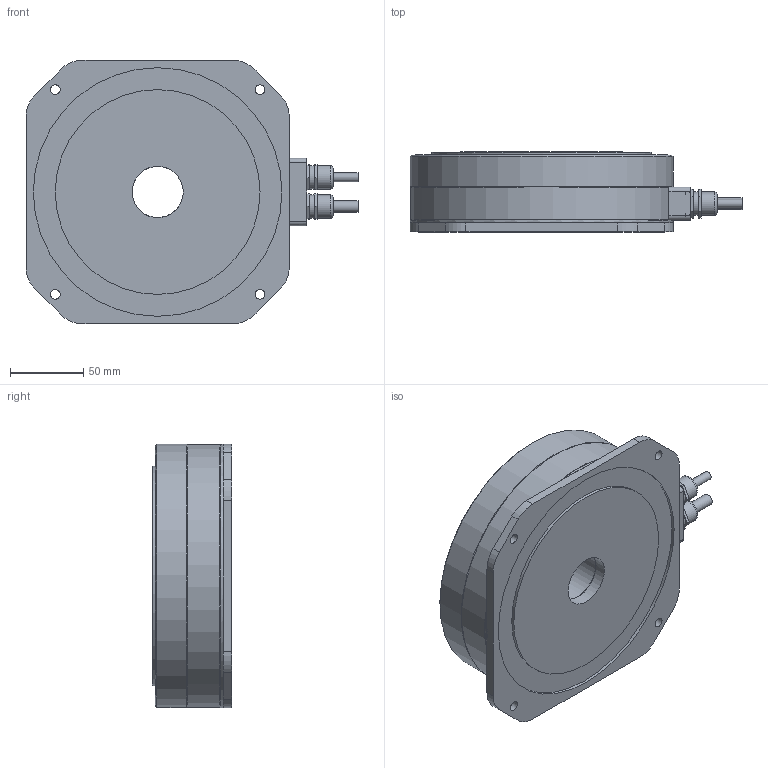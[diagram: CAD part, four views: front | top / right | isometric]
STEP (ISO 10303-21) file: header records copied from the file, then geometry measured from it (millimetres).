
FILE_DESCRIPTION( ( 'Unknown' ), '1' );
FILE_NAME( 'C:/Users/michael/Desktop/实体图底稿/RMB180-1三维模型.stp', 'Unknown', ( 'Unknown' ), ( 'Unknown' ), 'PSStep 17.0.49', 'Unknown', ' ' );
FILE_SCHEMA( ( 'AUTOMOTIVE_DESIGN { 1 0 10303 214 1 1 1 1 }' ) );
Length unit declared in the file: millimetre
Products named in the file (2): 轴承座
Bounding box: 227 x 54.5 x 180 mm (x, y, z)
Volume: 1317590.6 mm3; surface area: 170435.7 mm2
Topology: 2 solids, 14 shells, 326 faces, 732 edges, 487 vertices
Faces by surface type: plane 199, cylinder 102, bspline 13, cone 8, torus 4
Full cylindrical faces by diameter (mm): 2.459 x4, 3.6 x4, 4.134 x6, 4.8 x6, 5.6 x4, 6 x6, 6.647 x4, 7.6 x6, 8 x10, 12 x2, 16 x4, 35 x2, 132 x1, 140 x1, 150 x1, 164 x1, 170 x1, 172 x1, 173 x1, 180 x2
Entity records: 14244 total; most frequent: CARTESIAN_POINT 4857, DIRECTION 1380, ORIENTED_EDGE 1226, EDGE_CURVE 613, AXIS2_PLACEMENT_3D 506, EDGE_LOOP 470, VERTEX_POINT 453, FACE_OUTER_BOUND 397
